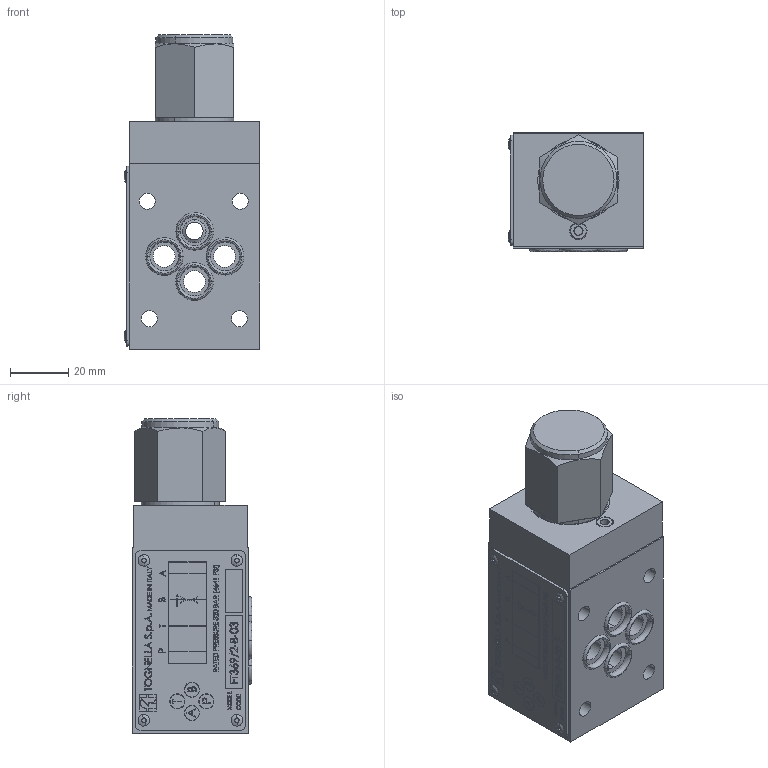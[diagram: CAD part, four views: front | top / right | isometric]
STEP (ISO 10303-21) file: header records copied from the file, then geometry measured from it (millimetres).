
FILE_DESCRIPTION (( 'STEP AP214' ), '1' );
FILE_NAME ('369-2-B-03.STEP', '2019-12-03T13:29:55', ( '' ), ( '' ), 'SwSTEP 2.0', 'SolidWorks 2018', '' );
FILE_SCHEMA (( 'AUTOMOTIVE_DESIGN' ));
Length unit declared in the file: millimetre
Products named in the file (1): 369-2-B-03
Bounding box: 46.66 x 41.1 x 108.3 mm (x, y, z)
Surface area: 29416.3 mm2 (no closed solid volume)
Topology: 0 solids, 21 shells, 741 faces, 3435 edges, 2605 vertices
Faces by surface type: plane 415, bspline 224, cylinder 76, cone 18, sphere 8
Entity records: 60733 total; most frequent: CARTESIAN_POINT 28086, ORIENTED_EDGE 4798, DIRECTION 3805, EDGE_CURVE 3435, VERTEX_POINT 2605, VECTOR 2281, LINE 2281, EDGE_LOOP 940
